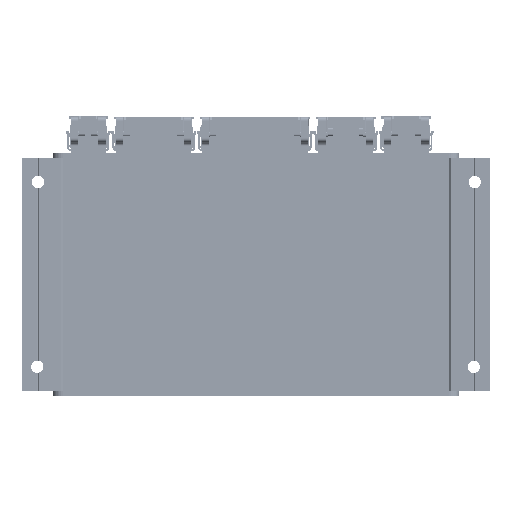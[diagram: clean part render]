
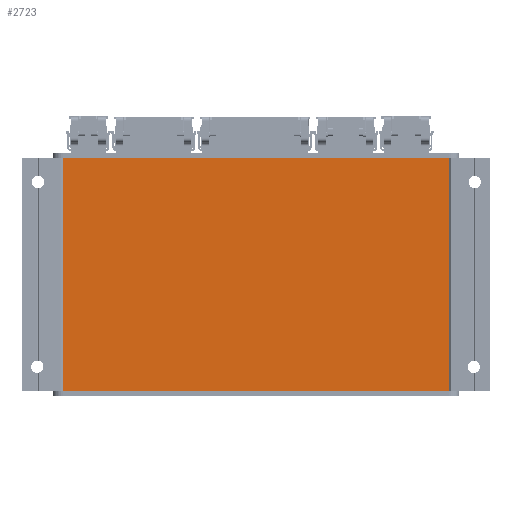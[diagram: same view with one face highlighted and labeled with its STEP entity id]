
A CAD part, front view. The second image highlights one B-rep face of the part: STEP entity #2723.
In plain terms, the highlighted planar face has unit normal (0, -1, 0).
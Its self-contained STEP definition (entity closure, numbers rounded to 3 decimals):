
#1=DIRECTION('',(-1.,0.,0.));
#2=VECTOR('',#1,157.);
#3=CARTESIAN_POINT('',(78.5,0.,3.));
#4=LINE('',#3,#2);
#5=DIRECTION('',(0.,0.,1.));
#6=VECTOR('',#5,94.5);
#7=CARTESIAN_POINT('',(-78.5,0.,3.));
#8=LINE('',#7,#6);
#693=DIRECTION('',(-1.,0.,0.));
#694=VECTOR('',#693,157.);
#695=CARTESIAN_POINT('',(78.5,0.,97.5));
#696=LINE('',#695,#694);
#2002=DIRECTION('',(0.,0.,1.));
#2003=VECTOR('',#2002,94.5);
#2004=CARTESIAN_POINT('',(78.5,0.,3.));
#2005=LINE('',#2004,#2003);
#2089=CARTESIAN_POINT('',(78.5,0.,3.));
#2090=CARTESIAN_POINT('',(-78.5,0.,3.));
#2091=VERTEX_POINT('',#2089);
#2092=VERTEX_POINT('',#2090);
#2093=CARTESIAN_POINT('',(-78.5,0.,97.5));
#2094=VERTEX_POINT('',#2093);
#2095=CARTESIAN_POINT('',(78.5,0.,97.5));
#2096=VERTEX_POINT('',#2095);
#2708=CARTESIAN_POINT('',(78.5,0.,0.));
#2709=DIRECTION('',(0.,-1.,0.));
#2710=DIRECTION('',(0.,0.,-1.));
#2711=AXIS2_PLACEMENT_3D('',#2708,#2709,#2710);
#2712=PLANE('',#2711);
#2714=ORIENTED_EDGE('',*,*,#2713,.T.);
#2716=ORIENTED_EDGE('',*,*,#2715,.T.);
#2718=ORIENTED_EDGE('',*,*,#2717,.F.);
#2720=ORIENTED_EDGE('',*,*,#2719,.F.);
#2721=EDGE_LOOP('',(#2714,#2716,#2718,#2720));
#2722=FACE_OUTER_BOUND('',#2721,.F.);
#2723=ADVANCED_FACE('',(#2722),#2712,.T.);
#2713=EDGE_CURVE('',#2091,#2092,#4,.T.);
#2715=EDGE_CURVE('',#2092,#2094,#8,.T.);
#2717=EDGE_CURVE('',#2096,#2094,#696,.T.);
#2719=EDGE_CURVE('',#2091,#2096,#2005,.T.);
